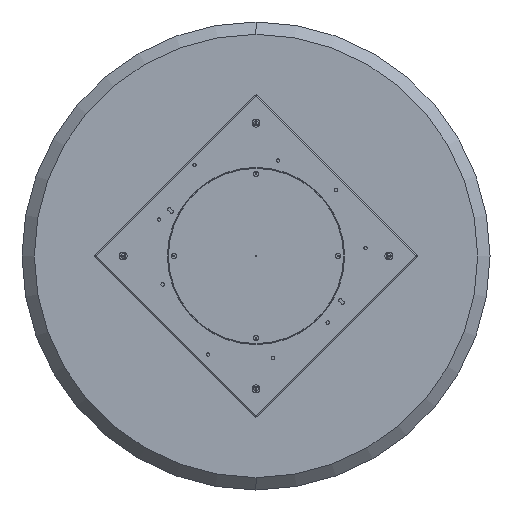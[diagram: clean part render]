
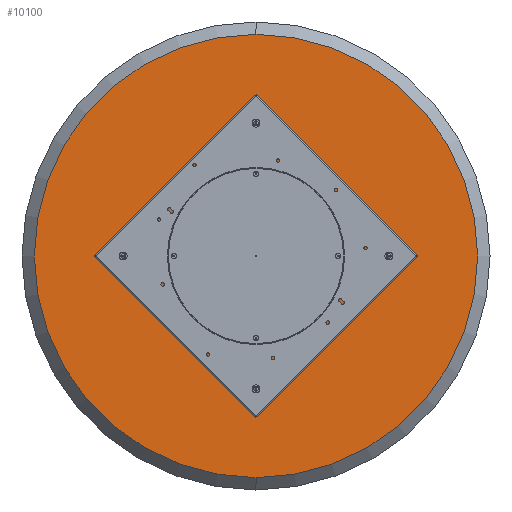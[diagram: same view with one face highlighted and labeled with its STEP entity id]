
A CAD part, front view. The second image highlights one B-rep face of the part: STEP entity #10100.
In plain terms, the highlighted planar face has unit normal (0, -1, 0).
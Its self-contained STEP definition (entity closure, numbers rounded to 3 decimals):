
#406 = DIRECTION ( 'NONE',  ( 0., 0., -1. ) ) ;
#693 = EDGE_CURVE ( 'NONE', #15123, #12466, #6978, .T. ) ;
#756 = ORIENTED_EDGE ( 'NONE', *, *, #4722, .T. ) ;
#800 = AXIS2_PLACEMENT_3D ( 'NONE', #16763, #6107, #11380 ) ;
#1087 = CARTESIAN_POINT ( 'NONE',  ( 0., 0., 0. ) ) ;
#1204 = DIRECTION ( 'NONE',  ( 0., -1., 0. ) ) ;
#1210 = EDGE_CURVE ( 'NONE', #2154, #16001, #15837, .T. ) ;
#1393 = EDGE_LOOP ( 'NONE', ( #7781, #756 ) ) ;
#1399 = EDGE_CURVE ( 'NONE', #3087, #12944, #8677, .T. ) ;
#2154 = VERTEX_POINT ( 'NONE', #15555 ) ;
#2315 = FACE_OUTER_BOUND ( 'NONE', #1393, .T. ) ;
#2684 = CARTESIAN_POINT ( 'NONE',  ( 0., 0., 397.5 ) ) ;
#2854 = ORIENTED_EDGE ( 'NONE', *, *, #1399, .F. ) ;
#2866 = EDGE_CURVE ( 'NONE', #11542, #7642, #3149, .T. ) ;
#2921 = CIRCLE ( 'NONE', #12622, 3.4 ) ;
#2984 = VERTEX_POINT ( 'NONE', #12214 ) ;
#2991 = ORIENTED_EDGE ( 'NONE', *, *, #2866, .F. ) ;
#3087 = VERTEX_POINT ( 'NONE', #5802 ) ;
#3149 = CIRCLE ( 'NONE', #15846, 3.4 ) ;
#3343 = CARTESIAN_POINT ( 'NONE',  ( -397.5, 0., 0. ) ) ;
#3753 = DIRECTION ( 'NONE',  ( 0., 0., -1. ) ) ;
#4012 = AXIS2_PLACEMENT_3D ( 'NONE', #8587, #15249, #13849 ) ;
#4678 = ORIENTED_EDGE ( 'NONE', *, *, #14003, .F. ) ;
#4722 = EDGE_CURVE ( 'NONE', #16001, #2154, #10360, .T. ) ;
#5206 = DIRECTION ( 'NONE',  ( 0., 0., -1. ) ) ;
#5217 = DIRECTION ( 'NONE',  ( 0., 0., -1. ) ) ;
#5372 = CARTESIAN_POINT ( 'NONE',  ( 0., 0., 0. ) ) ;
#5560 = ORIENTED_EDGE ( 'NONE', *, *, #12222, .F. ) ;
#5802 = CARTESIAN_POINT ( 'NONE',  ( -397.5, 0., -3.4 ) ) ;
#6107 = DIRECTION ( 'NONE',  ( 0., -1., 0. ) ) ;
#6140 = CARTESIAN_POINT ( 'NONE',  ( 0., 0., -400.9 ) ) ;
#6978 = CIRCLE ( 'NONE', #16099, 3.4 ) ;
#6996 = EDGE_LOOP ( 'NONE', ( #2991, #4678 ) ) ;
#7051 = CARTESIAN_POINT ( 'NONE',  ( -397.5, 0., 3.4 ) ) ;
#7277 = CARTESIAN_POINT ( 'NONE',  ( -397.5, 0., 0. ) ) ;
#7278 = AXIS2_PLACEMENT_3D ( 'NONE', #15687, #7990, #9104 ) ;
#7338 = EDGE_CURVE ( 'NONE', #12944, #3087, #8800, .T. ) ;
#7543 = DIRECTION ( 'NONE',  ( 0., 0., -1. ) ) ;
#7636 = FACE_BOUND ( 'NONE', #6996, .T. ) ;
#7642 = VERTEX_POINT ( 'NONE', #10870 ) ;
#7687 = AXIS2_PLACEMENT_3D ( 'NONE', #3343, #10029, #8651 ) ;
#7781 = ORIENTED_EDGE ( 'NONE', *, *, #1210, .T. ) ;
#7990 = DIRECTION ( 'NONE',  ( 0., -1., 0. ) ) ;
#8068 = DIRECTION ( 'NONE',  ( 0., -1., 0. ) ) ;
#8089 = CARTESIAN_POINT ( 'NONE',  ( 0., 0., 397.5 ) ) ;
#8310 = CIRCLE ( 'NONE', #800, 3.4 ) ;
#8519 = EDGE_LOOP ( 'NONE', ( #14565, #14570 ) ) ;
#8587 = CARTESIAN_POINT ( 'NONE',  ( 397.5, 0., 0. ) ) ;
#8651 = DIRECTION ( 'NONE',  ( 0., 0., -1. ) ) ;
#8677 = CIRCLE ( 'NONE', #11978, 3.4 ) ;
#8800 = CIRCLE ( 'NONE', #7687, 3.4 ) ;
#8891 = CARTESIAN_POINT ( 'NONE',  ( 397.5, 0., 0. ) ) ;
#9094 = DIRECTION ( 'NONE',  ( 0., -1., 0. ) ) ;
#9104 = DIRECTION ( 'NONE',  ( 0., 0., -1. ) ) ;
#9426 = AXIS2_PLACEMENT_3D ( 'NONE', #1087, #9094, #7543 ) ;
#9532 = DIRECTION ( 'NONE',  ( 0., 0., -1. ) ) ;
#9924 = EDGE_CURVE ( 'NONE', #12466, #15123, #12991, .T. ) ;
#10029 = DIRECTION ( 'NONE',  ( 0., -1., 0. ) ) ;
#10100 = ADVANCED_FACE ( 'NONE', ( #2315, #7636, #10224, #11522, #12986 ), #12655, .T. ) ;
#10224 = FACE_BOUND ( 'NONE', #17085, .T. ) ;
#10360 = CIRCLE ( 'NONE', #14524, 663. ) ;
#10395 = DIRECTION ( 'NONE',  ( 0., -1., 0. ) ) ;
#10852 = VERTEX_POINT ( 'NONE', #15823 ) ;
#10870 = CARTESIAN_POINT ( 'NONE',  ( 0., 0., -394.1 ) ) ;
#11124 = CARTESIAN_POINT ( 'NONE',  ( 0., 0., 394.1 ) ) ;
#11380 = DIRECTION ( 'NONE',  ( 0., 0., -1. ) ) ;
#11522 = FACE_BOUND ( 'NONE', #15658, .T. ) ;
#11542 = VERTEX_POINT ( 'NONE', #6140 ) ;
#11565 = EDGE_CURVE ( 'NONE', #2984, #10852, #13987, .T. ) ;
#11978 = AXIS2_PLACEMENT_3D ( 'NONE', #7277, #15167, #406 ) ;
#12214 = CARTESIAN_POINT ( 'NONE',  ( 397.5, 0., 3.4 ) ) ;
#12222 = EDGE_CURVE ( 'NONE', #10852, #2984, #2921, .T. ) ;
#12234 = ORIENTED_EDGE ( 'NONE', *, *, #7338, .F. ) ;
#12466 = VERTEX_POINT ( 'NONE', #14955 ) ;
#12622 = AXIS2_PLACEMENT_3D ( 'NONE', #8891, #14165, #3753 ) ;
#12655 = PLANE ( 'NONE',  #9426 ) ;
#12944 = VERTEX_POINT ( 'NONE', #7051 ) ;
#12986 = FACE_BOUND ( 'NONE', #8519, .T. ) ;
#12991 = CIRCLE ( 'NONE', #15226, 3.4 ) ;
#13734 = ORIENTED_EDGE ( 'NONE', *, *, #11565, .F. ) ;
#13849 = DIRECTION ( 'NONE',  ( 0., 0., -1. ) ) ;
#13987 = CIRCLE ( 'NONE', #4012, 3.4 ) ;
#14003 = EDGE_CURVE ( 'NONE', #7642, #11542, #8310, .T. ) ;
#14165 = DIRECTION ( 'NONE',  ( 0., -1., 0. ) ) ;
#14382 = DIRECTION ( 'NONE',  ( 0., 0., -1. ) ) ;
#14397 = CARTESIAN_POINT ( 'NONE',  ( 0., 0., -663. ) ) ;
#14524 = AXIS2_PLACEMENT_3D ( 'NONE', #5372, #10395, #14382 ) ;
#14565 = ORIENTED_EDGE ( 'NONE', *, *, #693, .F. ) ;
#14570 = ORIENTED_EDGE ( 'NONE', *, *, #9924, .F. ) ;
#14955 = CARTESIAN_POINT ( 'NONE',  ( 0., 0., 400.9 ) ) ;
#15123 = VERTEX_POINT ( 'NONE', #11124 ) ;
#15167 = DIRECTION ( 'NONE',  ( 0., -1., 0. ) ) ;
#15226 = AXIS2_PLACEMENT_3D ( 'NONE', #2684, #16120, #5206 ) ;
#15249 = DIRECTION ( 'NONE',  ( 0., -1., 0. ) ) ;
#15555 = CARTESIAN_POINT ( 'NONE',  ( 0., 0., 663. ) ) ;
#15658 = EDGE_LOOP ( 'NONE', ( #5560, #13734 ) ) ;
#15687 = CARTESIAN_POINT ( 'NONE',  ( 0., 0., 0. ) ) ;
#15823 = CARTESIAN_POINT ( 'NONE',  ( 397.5, 0., -3.4 ) ) ;
#15837 = CIRCLE ( 'NONE', #7278, 663. ) ;
#15846 = AXIS2_PLACEMENT_3D ( 'NONE', #15947, #8068, #9532 ) ;
#15947 = CARTESIAN_POINT ( 'NONE',  ( 0., 0., -397.5 ) ) ;
#16001 = VERTEX_POINT ( 'NONE', #14397 ) ;
#16099 = AXIS2_PLACEMENT_3D ( 'NONE', #8089, #1204, #5217 ) ;
#16120 = DIRECTION ( 'NONE',  ( 0., -1., 0. ) ) ;
#16763 = CARTESIAN_POINT ( 'NONE',  ( 0., 0., -397.5 ) ) ;
#17085 = EDGE_LOOP ( 'NONE', ( #2854, #12234 ) ) ;
